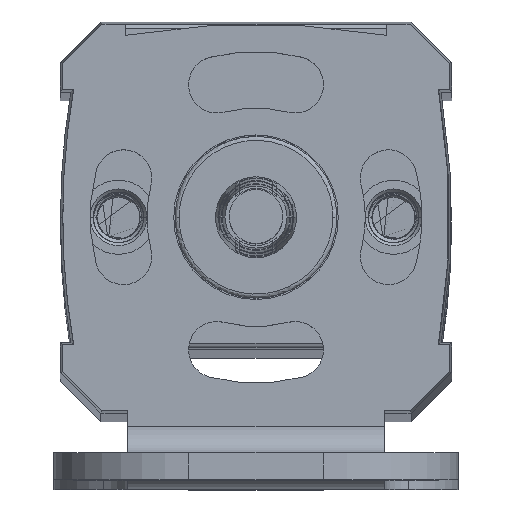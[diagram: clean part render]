
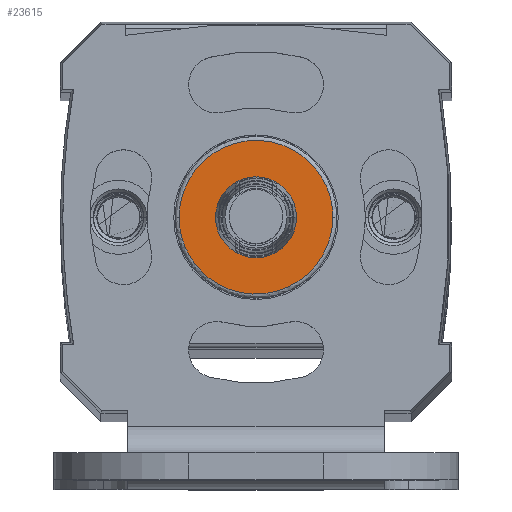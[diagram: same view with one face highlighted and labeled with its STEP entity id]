
A CAD part, top view. The second image highlights one B-rep face of the part: STEP entity #23615.
In plain terms, the highlighted planar face has unit normal (0, 0, 1).
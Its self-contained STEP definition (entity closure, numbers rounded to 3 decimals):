
#626 = CARTESIAN_POINT ( 'NONE',  ( 5.7, 6.5, 12. ) ) ;
#746 = CARTESIAN_POINT ( 'NONE',  ( 2., 6.5, 12. ) ) ;
#857 = ORIENTED_EDGE ( 'NONE', *, *, #7186, .F. ) ;
#953 = CARTESIAN_POINT ( 'NONE',  ( -5.7, 6.5, 12. ) ) ;
#1913 = FACE_BOUND ( 'NONE', #11192, .T. ) ;
#2480 =( BOUNDED_CURVE ( )  B_SPLINE_CURVE ( 3, ( #8328, #17726, #29706, #13565 ),
 .UNSPECIFIED., .F., .F. ) 
 B_SPLINE_CURVE_WITH_KNOTS ( ( 4, 4 ),
 ( 0., 0.5 ),
 .UNSPECIFIED. ) 
 CURVE ( )  GEOMETRIC_REPRESENTATION_ITEM ( )  RATIONAL_B_SPLINE_CURVE ( ( 1., 0.333, 0.333, 1. ) ) 
 REPRESENTATION_ITEM ( '' )  );
#2674 = EDGE_CURVE ( 'NONE', #30081, #22738, #2480, .T. ) ;
#2763 = CARTESIAN_POINT ( 'NONE',  ( -5.7, 6.5, 12. ) ) ;
#3625 =( BOUNDED_CURVE ( )  B_SPLINE_CURVE ( 3, ( #2763, #12121, #28586, #626 ),
 .UNSPECIFIED., .F., .F. ) 
 B_SPLINE_CURVE_WITH_KNOTS ( ( 4, 4 ),
 ( 0.5, 1. ),
 .UNSPECIFIED. ) 
 CURVE ( )  GEOMETRIC_REPRESENTATION_ITEM ( )  RATIONAL_B_SPLINE_CURVE ( ( 1., 0.333, 0.333, 1. ) ) 
 REPRESENTATION_ITEM ( '' )  );
#4839 = ORIENTED_EDGE ( 'NONE', *, *, #25278, .T. ) ;
#7186 = EDGE_CURVE ( 'NONE', #22738, #30081, #3625, .T. ) ;
#7694 = DIRECTION ( 'NONE',  ( 1., 0., 0. ) ) ;
#8328 = CARTESIAN_POINT ( 'NONE',  ( 5.7, 6.5, 12. ) ) ;
#11162 = AXIS2_PLACEMENT_3D ( 'NONE', #12461, #21861, #28327 ) ;
#11192 = EDGE_LOOP ( 'NONE', ( #4839, #19652 ) ) ;
#11256 = FACE_OUTER_BOUND ( 'NONE', #12481, .T. ) ;
#12121 = CARTESIAN_POINT ( 'NONE',  ( -5.7, 17.9, 12. ) ) ;
#12461 = CARTESIAN_POINT ( 'NONE',  ( 0., 6.5, 12. ) ) ;
#12481 = EDGE_LOOP ( 'NONE', ( #857, #16425 ) ) ;
#13042 = VERTEX_POINT ( 'NONE', #746 ) ;
#13565 = CARTESIAN_POINT ( 'NONE',  ( -5.7, 6.5, 12. ) ) ;
#13945 = CARTESIAN_POINT ( 'NONE',  ( 0., 6.5, 12. ) ) ;
#15903 = CARTESIAN_POINT ( 'NONE',  ( -2., 6.5, 12. ) ) ;
#16425 = ORIENTED_EDGE ( 'NONE', *, *, #2674, .F. ) ;
#16995 = CIRCLE ( 'NONE', #26308, 2. ) ;
#17726 = CARTESIAN_POINT ( 'NONE',  ( 5.7, -4.9, 12. ) ) ;
#18861 = CARTESIAN_POINT ( 'NONE',  ( 5.7, 6.5, 12. ) ) ;
#19365 = VERTEX_POINT ( 'NONE', #15903 ) ;
#19652 = ORIENTED_EDGE ( 'NONE', *, *, #30006, .T. ) ;
#20256 = DIRECTION ( 'NONE',  ( 0., 0., -1. ) ) ;
#21565 = CARTESIAN_POINT ( 'NONE',  ( 0., 6.5, 12. ) ) ;
#21861 = DIRECTION ( 'NONE',  ( 0., 0., -1. ) ) ;
#22738 = VERTEX_POINT ( 'NONE', #953 ) ;
#22987 = AXIS2_PLACEMENT_3D ( 'NONE', #21565, #23853, #7694 ) ;
#23615 = ADVANCED_FACE ( 'NONE', ( #1913, #11256 ), #23711, .T. ) ;
#23711 = PLANE ( 'NONE',  #22987 ) ;
#23853 = DIRECTION ( 'NONE',  ( 0., 0., 1. ) ) ;
#25278 = EDGE_CURVE ( 'NONE', #19365, #13042, #28835, .T. ) ;
#26308 = AXIS2_PLACEMENT_3D ( 'NONE', #13945, #20256, #29943 ) ;
#28327 = DIRECTION ( 'NONE',  ( -1., 0., 0. ) ) ;
#28586 = CARTESIAN_POINT ( 'NONE',  ( 5.7, 17.9, 12. ) ) ;
#28835 = CIRCLE ( 'NONE', #11162, 2. ) ;
#29706 = CARTESIAN_POINT ( 'NONE',  ( -5.7, -4.9, 12. ) ) ;
#29943 = DIRECTION ( 'NONE',  ( -1., 0., 0. ) ) ;
#30006 = EDGE_CURVE ( 'NONE', #13042, #19365, #16995, .T. ) ;
#30081 = VERTEX_POINT ( 'NONE', #18861 ) ;
